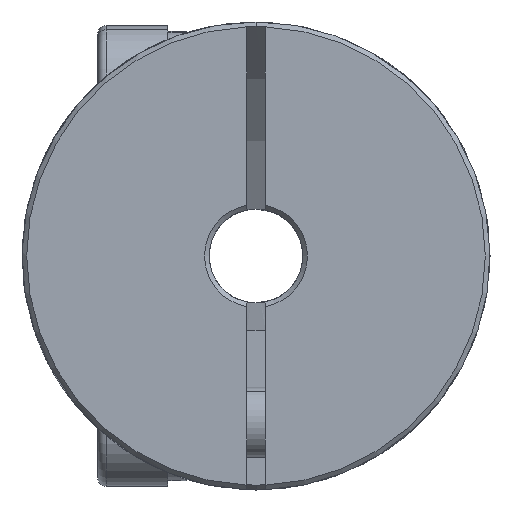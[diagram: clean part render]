
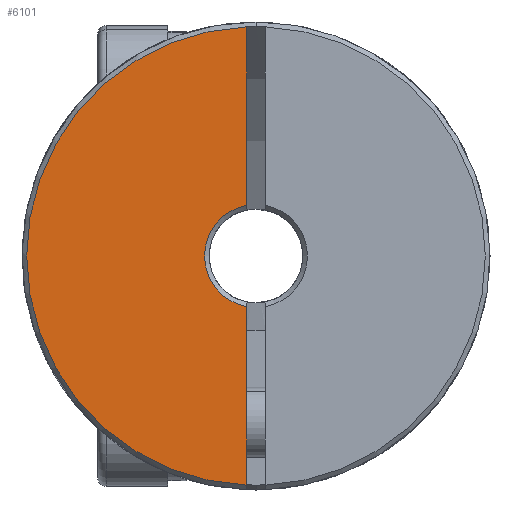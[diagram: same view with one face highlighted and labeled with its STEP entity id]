
A CAD part, front view. The second image highlights one B-rep face of the part: STEP entity #6101.
In plain terms, the highlighted planar face has unit normal (0, -1, 0).
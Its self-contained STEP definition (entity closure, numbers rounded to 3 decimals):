
#119 = CARTESIAN_POINT ( 'NONE',  ( -0.4, -17.5, -9.792 ) ) ;
#756 = ORIENTED_EDGE ( 'NONE', *, *, #4711, .T. ) ;
#859 = AXIS2_PLACEMENT_3D ( 'NONE', #5772, #5727, #7495 ) ;
#1470 = AXIS2_PLACEMENT_3D ( 'NONE', #6664, #4168, #4328 ) ;
#2050 = DIRECTION ( 'NONE',  ( 0., 0., 1. ) ) ;
#2137 = CARTESIAN_POINT ( 'NONE',  ( -0.4, -17.5, -2.163 ) ) ;
#2224 = LINE ( 'NONE', #3129, #4634 ) ;
#2505 = ORIENTED_EDGE ( 'NONE', *, *, #3687, .T. ) ;
#2681 = CARTESIAN_POINT ( 'NONE',  ( 0., -17.5, 0. ) ) ;
#2693 = ORIENTED_EDGE ( 'NONE', *, *, #5602, .F. ) ;
#2829 = CARTESIAN_POINT ( 'NONE',  ( -0.4, -17.5, 2.163 ) ) ;
#2884 = VECTOR ( 'NONE', #5064, 1000. ) ;
#3129 = CARTESIAN_POINT ( 'NONE',  ( -0.4, -17.5, 0. ) ) ;
#3168 = CIRCLE ( 'NONE', #859, 9.8 ) ;
#3390 = EDGE_LOOP ( 'NONE', ( #4524, #756, #2693, #2505 ) ) ;
#3571 = VERTEX_POINT ( 'NONE', #2829 ) ;
#3687 = EDGE_CURVE ( 'NONE', #5681, #3571, #6892, .T. ) ;
#3723 = DIRECTION ( 'NONE',  ( 0., 0., -1. ) ) ;
#4168 = DIRECTION ( 'NONE',  ( 0., 1., 0. ) ) ;
#4328 = DIRECTION ( 'NONE',  ( 0., 0., 1. ) ) ;
#4357 = CARTESIAN_POINT ( 'NONE',  ( -0.4, -17.5, 0. ) ) ;
#4524 = ORIENTED_EDGE ( 'NONE', *, *, #7149, .F. ) ;
#4634 = VECTOR ( 'NONE', #3723, 1000. ) ;
#4650 = FACE_OUTER_BOUND ( 'NONE', #3390, .T. ) ;
#4711 = EDGE_CURVE ( 'NONE', #6444, #6953, #3168, .T. ) ;
#5059 = DIRECTION ( 'NONE',  ( 0., 1., 0. ) ) ;
#5064 = DIRECTION ( 'NONE',  ( 0., 0., -1. ) ) ;
#5327 = CARTESIAN_POINT ( 'NONE',  ( -0.4, -17.5, 9.792 ) ) ;
#5602 = EDGE_CURVE ( 'NONE', #5681, #6953, #6031, .T. ) ;
#5681 = VERTEX_POINT ( 'NONE', #2137 ) ;
#5727 = DIRECTION ( 'NONE',  ( 0., -1., 0. ) ) ;
#5772 = CARTESIAN_POINT ( 'NONE',  ( 0., -17.5, 0. ) ) ;
#6031 = LINE ( 'NONE', #4357, #2884 ) ;
#6101 = ADVANCED_FACE ( 'NONE', ( #4650 ), #7247, .F. ) ;
#6444 = VERTEX_POINT ( 'NONE', #5327 ) ;
#6585 = AXIS2_PLACEMENT_3D ( 'NONE', #2681, #5059, #2050 ) ;
#6664 = CARTESIAN_POINT ( 'NONE',  ( 0., -17.5, 0. ) ) ;
#6892 = CIRCLE ( 'NONE', #1470, 2.2 ) ;
#6953 = VERTEX_POINT ( 'NONE', #119 ) ;
#7149 = EDGE_CURVE ( 'NONE', #6444, #3571, #2224, .T. ) ;
#7247 = PLANE ( 'NONE',  #6585 ) ;
#7495 = DIRECTION ( 'NONE',  ( 0., 0., 1. ) ) ;
